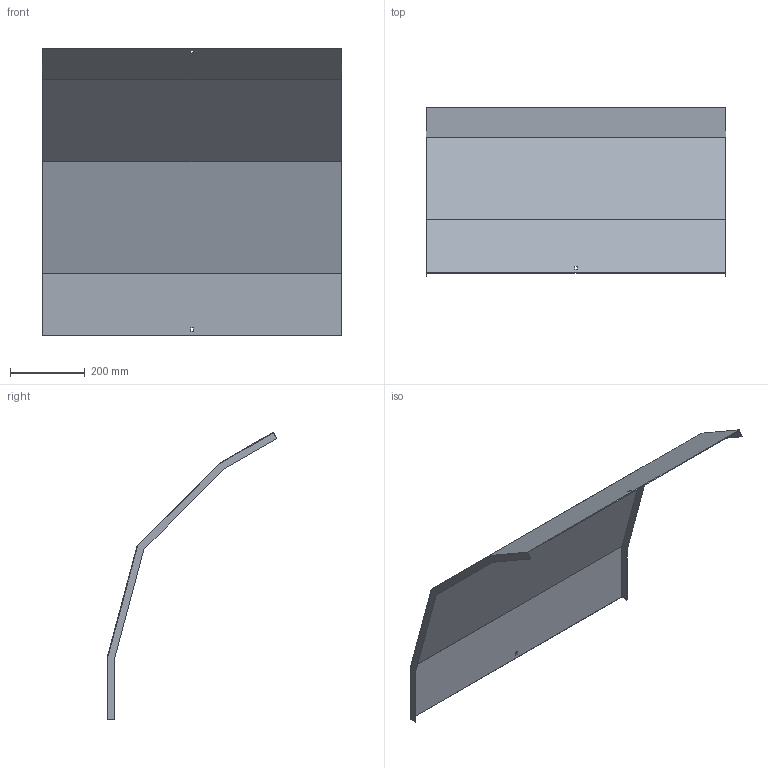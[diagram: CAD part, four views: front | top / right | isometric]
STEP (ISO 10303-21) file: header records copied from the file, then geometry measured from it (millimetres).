
FILE_DESCRIPTION (( 'STEP AP214' ), '1' );
FILE_NAME ('41N5J800.step', '2025-02-21T10:38:59', ( '' ), ( '' ), 'SwSTEP 2.0', 'SolidWorks 2023', '' );
FILE_SCHEMA (( 'AUTOMOTIVE_DESIGN' ));
Length unit declared in the file: millimetre
Products named in the file (1): 41N5J800
Bounding box: 803 x 454.7 x 770.25 mm (x, y, z)
Volume: 1201845.9 mm3; surface area: 1607878.7 mm2
Topology: 1 solids, 1 shells, 30 faces, 84 edges, 56 vertices
Faces by surface type: plane 30
Entity records: 979 total; most frequent: CARTESIAN_POINT 171, ORIENTED_EDGE 168, DIRECTION 146, EDGE_CURVE 84, VECTOR 84, LINE 84, VERTEX_POINT 56, EDGE_LOOP 34
